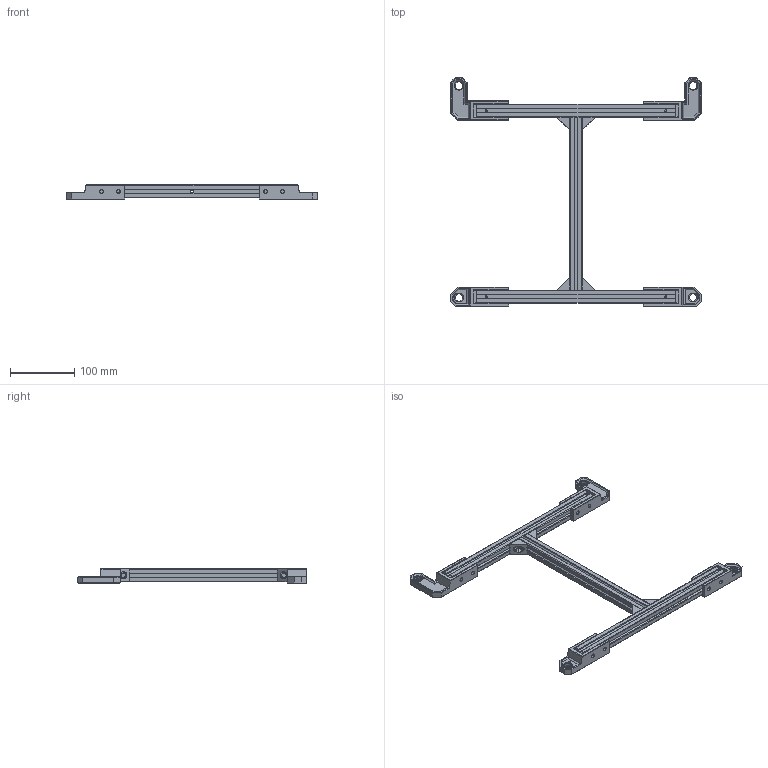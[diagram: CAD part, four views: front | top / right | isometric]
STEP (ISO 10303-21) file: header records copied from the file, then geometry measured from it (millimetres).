
FILE_DESCRIPTION(/* description */ (''),/* implementation_level */ '2;1');
FILE_NAME(/* name */ 'Steph''s Wider Bed Frame.step',/* time_stamp */ '2024-08-22T23:35:58-04:00',/* author */ (''),/* organization */ (''),/* preprocessor_version */ 'ST-DEVELOPER v20',/* originating_system */ 'Autodesk Translation Framework v13.14.0.145',/* authorisation */ '');
FILE_SCHEMA (('AUTOMOTIVE_DESIGN { 1 0 10303 214 3 1 1 }'));
Length unit declared in the file: millimetre
Products named in the file (10): Steph's Wider Bed Frame; Frame (2) (1) (1); 2020_300mm_bed; 2020_270mm; misumi corner joint_misumi 2020 corner joint; Printed Parts; front left bed mount SSIP (1); front right bed mount SSIP (1); back left bed mount SSIP (1) (1); back right bed mount SSIP (1) (1)
Assembly tree (13 placements, depth 3):
  Steph's Wider Bed Frame
    Frame (2) (1) (1)
      2020_300mm_bed  x2
      2020_270mm
      misumi corner joint_misumi 2020 corner joint  x4
    Printed Parts
      front left bed mount SSIP (1)
      front right bed mount SSIP (1)
      back left bed mount SSIP (1) (1)
      back right bed mount SSIP (1) (1)
Bounding box: 390.67 x 356.33 x 22.81 mm (x, y, z)
Volume: 288501.8 mm3; surface area: 217460.4 mm2
Topology: 11 solids, 11 shells, 848 faces, 2142 edges, 1270 vertices
Faces by surface type: plane 491, cylinder 193, cone 164
Full cylindrical faces by diameter (mm): 2.8 x12, 3.175 x6, 4.2 x5, 5 x2, 5.4 x16, 7.14 x8, 11 x8, 12 x4, 14.15 x4
Entity records: 22262 total; most frequent: CARTESIAN_POINT 3947, DIRECTION 3828, ORIENTED_EDGE 3658, EDGE_CURVE 1829, LINE 1364, VECTOR 1364, AXIS2_PLACEMENT_3D 1232, VERTEX_POINT 1108
